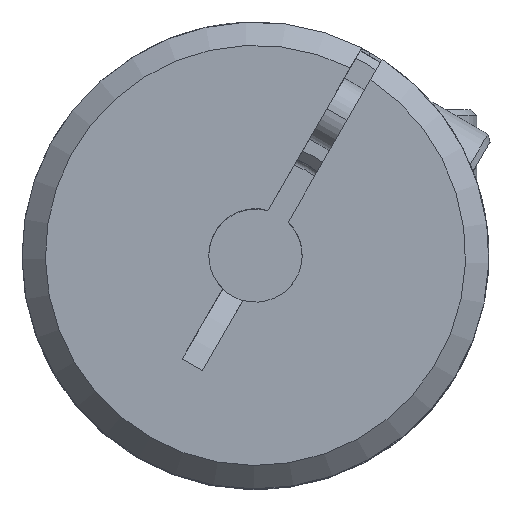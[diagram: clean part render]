
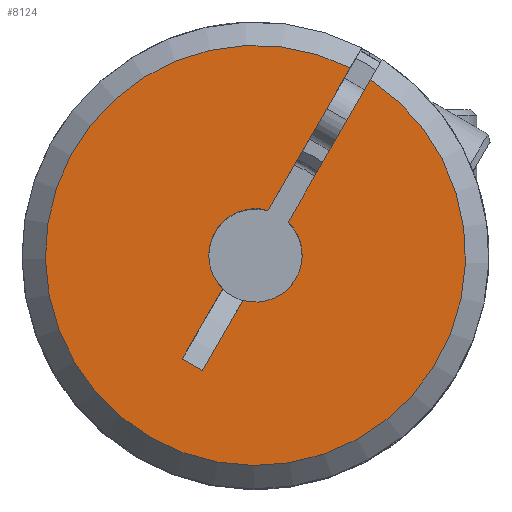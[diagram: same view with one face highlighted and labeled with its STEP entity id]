
A CAD part, top view. The second image highlights one B-rep face of the part: STEP entity #8124.
In plain terms, the highlighted planar face has unit normal (0, 0, 1).
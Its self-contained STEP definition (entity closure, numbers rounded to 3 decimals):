
#60=CARTESIAN_POINT('',(0.,0.,25.));
#61=DIRECTION('',(0.,0.,1.));
#62=DIRECTION('',(0.268,0.964,0.));
#63=AXIS2_PLACEMENT_3D('',#60,#61,#62);
#65=DIRECTION('',(-0.5,-0.866,0.));
#66=VECTOR('',#65,6.953);
#67=CARTESIAN_POINT('',(-2.803,-2.854,25.));
#68=LINE('',#67,#66);
#69=DIRECTION('',(-0.866,0.5,0.));
#70=VECTOR('',#69,2.);
#71=CARTESIAN_POINT('',(-4.547,-9.875,25.));
#72=LINE('',#71,#70);
#73=DIRECTION('',(-0.5,-0.866,0.));
#74=VECTOR('',#73,6.953);
#75=CARTESIAN_POINT('',(-1.07,-3.854,25.));
#76=LINE('',#75,#74);
#77=CARTESIAN_POINT('',(0.,0.,25.));
#78=DIRECTION('',(0.,0.,1.));
#79=DIRECTION('',(-0.268,-0.964,0.));
#80=AXIS2_PLACEMENT_3D('',#77,#78,#79);
#82=DIRECTION('',(-0.5,-0.866,0.));
#83=VECTOR('',#82,14.099);
#84=CARTESIAN_POINT('',(9.852,15.064,25.));
#85=LINE('',#84,#83);
#86=DIRECTION('',(-0.5,-0.866,0.));
#87=VECTOR('',#86,14.099);
#88=CARTESIAN_POINT('',(8.12,16.064,25.));
#89=LINE('',#88,#87);
#140=CARTESIAN_POINT('',(8.12,16.064,25.));
#147=CARTESIAN_POINT('',(0.,0.,25.));
#148=DIRECTION('',(0.,0.,1.));
#149=DIRECTION('',(0.451,0.892,0.));
#150=AXIS2_PLACEMENT_3D('',#147,#148,#149);
#157=CARTESIAN_POINT('',(9.852,15.064,25.));
#6712=CARTESIAN_POINT('',(-4.547,-9.875,25.));
#6713=CARTESIAN_POINT('',(-6.279,-8.875,25.));
#6714=VERTEX_POINT('',#6712);
#6715=VERTEX_POINT('',#6713);
#6717=VERTEX_POINT('',#157);
#6718=VERTEX_POINT('',#140);
#6775=CARTESIAN_POINT('',(1.07,3.854,25.));
#6776=CARTESIAN_POINT('',(-2.803,-2.854,25.));
#6777=VERTEX_POINT('',#6775);
#6778=VERTEX_POINT('',#6776);
#6779=CARTESIAN_POINT('',(-1.07,-3.854,25.));
#6780=CARTESIAN_POINT('',(2.803,2.854,25.));
#6781=VERTEX_POINT('',#6779);
#6782=VERTEX_POINT('',#6780);
#8101=CARTESIAN_POINT('',(0.,0.,25.));
#8102=DIRECTION('',(0.,0.,-1.));
#8103=DIRECTION('',(0.866,-0.5,0.));
#8104=AXIS2_PLACEMENT_3D('',#8101,#8102,#8103);
#8105=PLANE('',#8104);
#8107=ORIENTED_EDGE('',*,*,#8106,.T.);
#8109=ORIENTED_EDGE('',*,*,#8108,.T.);
#8111=ORIENTED_EDGE('',*,*,#8110,.F.);
#8113=ORIENTED_EDGE('',*,*,#8112,.F.);
#8115=ORIENTED_EDGE('',*,*,#8114,.T.);
#8117=ORIENTED_EDGE('',*,*,#8116,.F.);
#8119=ORIENTED_EDGE('',*,*,#8118,.F.);
#8121=ORIENTED_EDGE('',*,*,#8120,.T.);
#8122=EDGE_LOOP('',(#8107,#8109,#8111,#8113,#8115,#8117,#8119,#8121));
#8123=FACE_OUTER_BOUND('',#8122,.F.);
#8124=ADVANCED_FACE('',(#8123),#8105,.F.);
#64=CIRCLE('',#63,4.);
#81=CIRCLE('',#80,4.);
#151=CIRCLE('',#150,18.);
#8106=EDGE_CURVE('',#6777,#6778,#64,.T.);
#8108=EDGE_CURVE('',#6778,#6715,#68,.T.);
#8110=EDGE_CURVE('',#6714,#6715,#72,.T.);
#8112=EDGE_CURVE('',#6781,#6714,#76,.T.);
#8114=EDGE_CURVE('',#6781,#6782,#81,.T.);
#8116=EDGE_CURVE('',#6717,#6782,#85,.T.);
#8118=EDGE_CURVE('',#6718,#6717,#151,.T.);
#8120=EDGE_CURVE('',#6718,#6777,#89,.T.);
